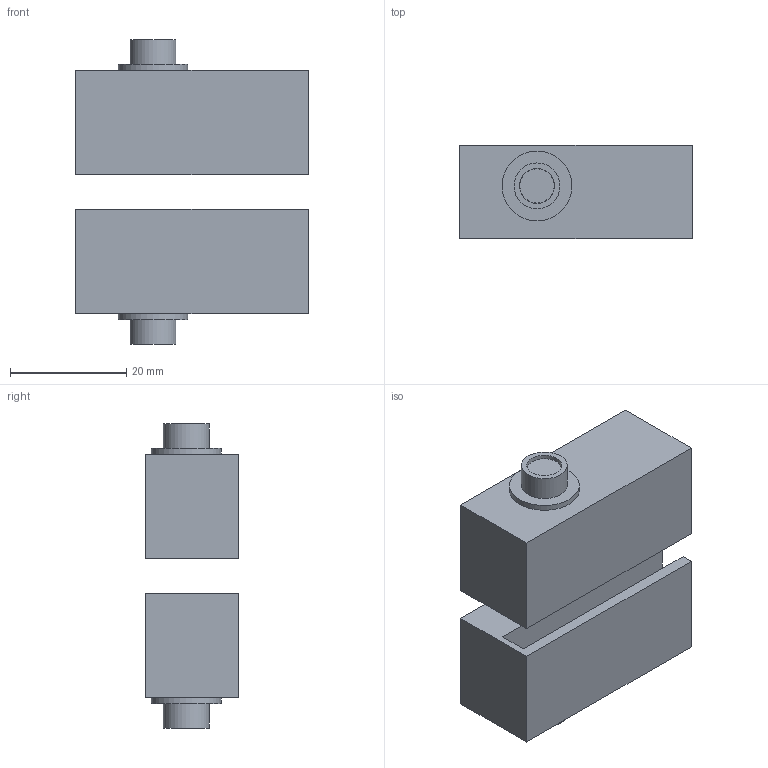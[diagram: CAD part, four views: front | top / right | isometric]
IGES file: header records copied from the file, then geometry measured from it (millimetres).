
Start section: Data from Parasolid IGES Translator 20.0.26, Copyright(c) 2006 Siemens P LM Software. All Rights Reserved.
Global section: file name: 9303928.igs; native system: By Siemens PLM Incorporated; preprocessor: XPlus GENERIC/IGES 20.0.26; author: Noname; organization: Noname; date: 20210824.165540; units: millimetre
Bounding box: 40 x 16 x 52.25 mm (x, y, z)
Surface area: 9960.3 mm2 (no closed solid volume)
Topology: 0 solids, 0 shells, 36 faces, 144 edges, 128 vertices
Faces by surface type: extrusion 28, revolution 8
